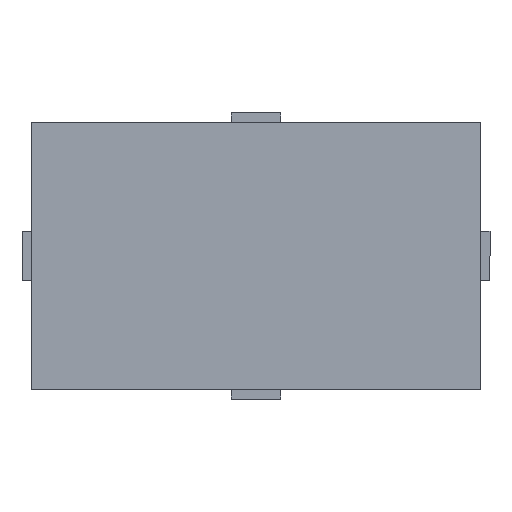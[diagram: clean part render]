
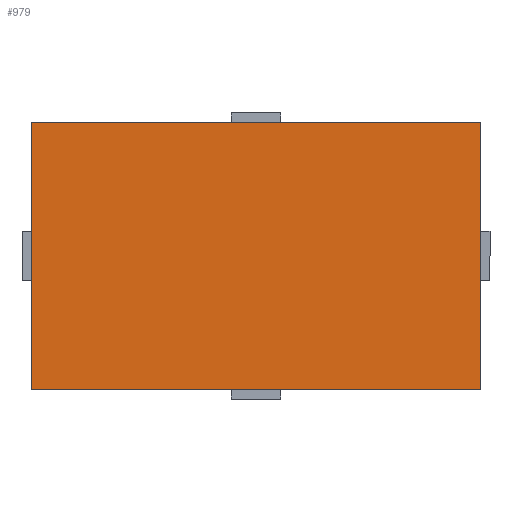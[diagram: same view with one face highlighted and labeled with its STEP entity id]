
A CAD part, front view. The second image highlights one B-rep face of the part: STEP entity #979.
In plain terms, the highlighted planar face has unit normal (0, -1, 0).
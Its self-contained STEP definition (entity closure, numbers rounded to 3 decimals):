
#52 = VECTOR ( 'NONE', #724, 1000. ) ;
#79 = ORIENTED_EDGE ( 'NONE', *, *, #478, .F. ) ;
#110 = ORIENTED_EDGE ( 'NONE', *, *, #500, .F. ) ;
#121 = VERTEX_POINT ( 'NONE', #498 ) ;
#142 = AXIS2_PLACEMENT_3D ( 'NONE', #1007, #982, #973 ) ;
#145 = DIRECTION ( 'NONE',  ( 0., 0., -1. ) ) ;
#164 = CARTESIAN_POINT ( 'NONE',  ( 24.71, 0., -14.7 ) ) ;
#253 = VERTEX_POINT ( 'NONE', #509 ) ;
#290 = ORIENTED_EDGE ( 'NONE', *, *, #874, .F. ) ;
#358 = EDGE_LOOP ( 'NONE', ( #824, #110, #290, #79 ) ) ;
#375 = VERTEX_POINT ( 'NONE', #591 ) ;
#378 = VECTOR ( 'NONE', #568, 1000. ) ;
#427 = VERTEX_POINT ( 'NONE', #671 ) ;
#464 = LINE ( 'NONE', #608, #378 ) ;
#478 = EDGE_CURVE ( 'NONE', #375, #427, #808, .T. ) ;
#498 = CARTESIAN_POINT ( 'NONE',  ( 24.71, 0., -14.7 ) ) ;
#500 = EDGE_CURVE ( 'NONE', #121, #253, #885, .T. ) ;
#509 = CARTESIAN_POINT ( 'NONE',  ( -24.71, 0., -14.7 ) ) ;
#568 = DIRECTION ( 'NONE',  ( 0., 0., 1. ) ) ;
#591 = CARTESIAN_POINT ( 'NONE',  ( -24.71, 0., 14.7 ) ) ;
#608 = CARTESIAN_POINT ( 'NONE',  ( -24.71, 0., -14.7 ) ) ;
#671 = CARTESIAN_POINT ( 'NONE',  ( 24.71, 0., 14.7 ) ) ;
#672 = LINE ( 'NONE', #164, #869 ) ;
#712 = CARTESIAN_POINT ( 'NONE',  ( -24.71, 0., 14.7 ) ) ;
#724 = DIRECTION ( 'NONE',  ( 1., 0., 0. ) ) ;
#736 = DIRECTION ( 'NONE',  ( -1., 0., 0. ) ) ;
#749 = CARTESIAN_POINT ( 'NONE',  ( -24.71, 0., -14.7 ) ) ;
#808 = LINE ( 'NONE', #712, #52 ) ;
#824 = ORIENTED_EDGE ( 'NONE', *, *, #1010, .F. ) ;
#865 = VECTOR ( 'NONE', #736, 1000. ) ;
#869 = VECTOR ( 'NONE', #145, 1000. ) ;
#874 = EDGE_CURVE ( 'NONE', #427, #121, #672, .T. ) ;
#885 = LINE ( 'NONE', #749, #865 ) ;
#940 = FACE_OUTER_BOUND ( 'NONE', #358, .T. ) ;
#973 = DIRECTION ( 'NONE',  ( 0., 0., 1. ) ) ;
#979 = ADVANCED_FACE ( 'NONE', ( #940 ), #1014, .F. ) ;
#982 = DIRECTION ( 'NONE',  ( 0., 1., 0. ) ) ;
#1007 = CARTESIAN_POINT ( 'NONE',  ( 0., 0., 0. ) ) ;
#1010 = EDGE_CURVE ( 'NONE', #253, #375, #464, .T. ) ;
#1014 = PLANE ( 'NONE',  #142 ) ;
